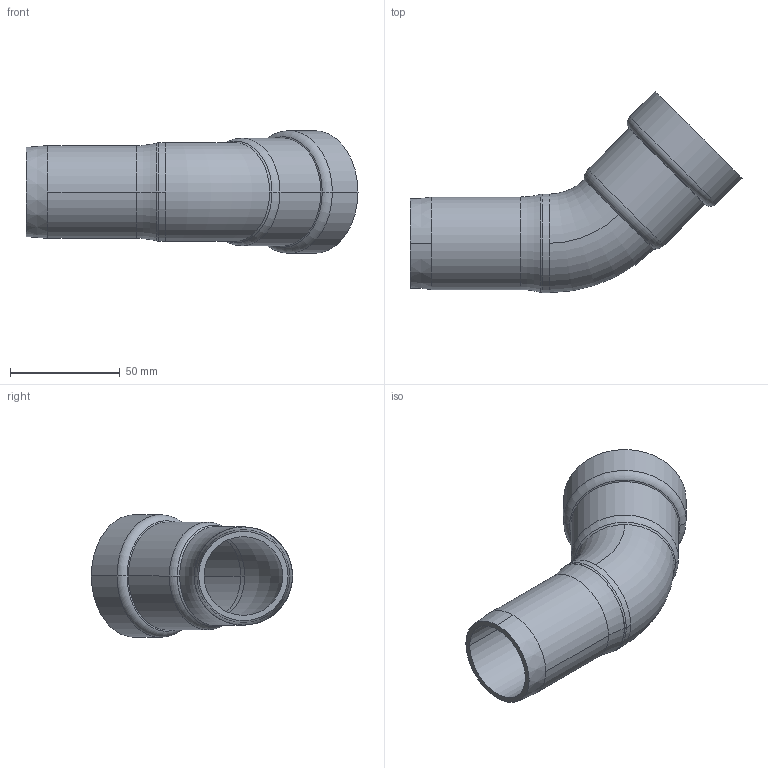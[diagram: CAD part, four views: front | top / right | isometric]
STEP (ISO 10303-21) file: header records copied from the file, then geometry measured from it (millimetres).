
FILE_DESCRIPTION(('Creo Elements/Direct Modeling STEP Export'),'2;1');
FILE_NAME('C9412_1-1-4.stp','2020-06-25T13:52:16',(''),(''),'PTC Creo Elements/Direct Modeling STEP processor for AP214 (Solid Model)','PTC Creo Elements/Direct Modeling 19.0C 15-Aug-2015 (C) Parametric Technology GmbH','');
FILE_SCHEMA(('AUTOMOTIVE_DESIGN { 1 0 10303 214 1 1 1 1 }'));
Length unit declared in the file: millimetre
Products named in the file (1): 9412_1-1-4
Bounding box: 151.6 x 91.91 x 56 mm (x, y, z)
Volume: 71620 mm3; surface area: 42327.1 mm2
Topology: 1 solids, 1 shells, 45 faces, 100 edges, 58 vertices
Faces by surface type: torus 16, cylinder 16, cone 10, plane 3
Entity records: 1116 total; most frequent: ORIENTED_EDGE 200, DIRECTION 198, CARTESIAN_POINT 170, EDGE_CURVE 100, AXIS2_PLACEMENT_3D 86, VERTEX_POINT 58, EDGE_LOOP 48, FACE_OUTER_BOUND 45
